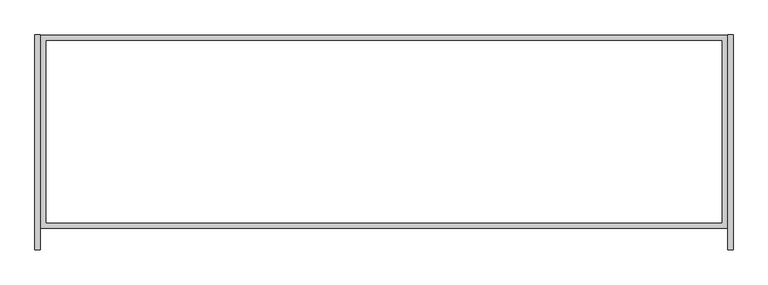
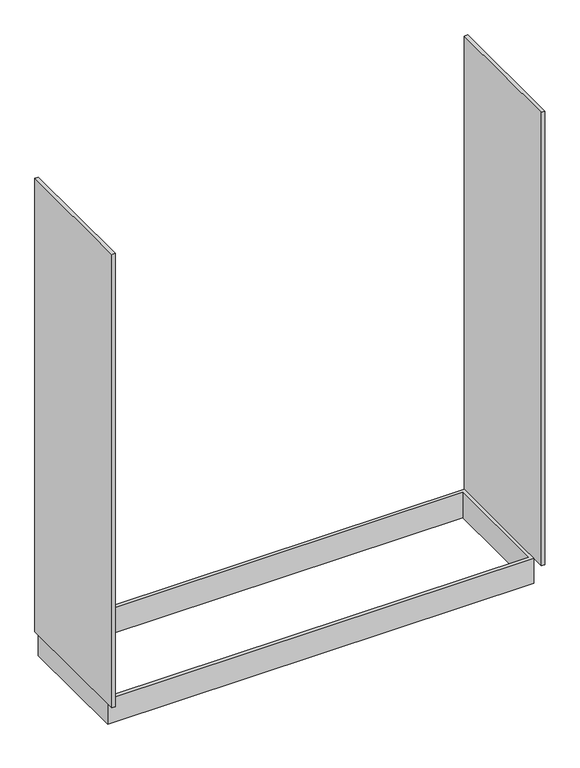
"""IFC4 building model written with IfcOpenShell, lengths in millimetres: furniture geometry, Lockers-Bay-Duracube-Duraloc : LPM-1900h x 500d x 400w with 100h x 50d Plinth-Stepped."""

from ifc_helpers import new_model, si_unit, frame, origin, origin_with_axes, place, context, project, spatial, polyline, outline, extrude, source, transform, mapped, element, save


def furniture_8c00c06e(model_context):
    return source(origin(), model_context, "Body", "SweptSolid", [
        extrude(outline(polyline([(1613.0, 250.0), (1613.0, -200.0), (13.0, -200.0), (13.0, 250.0), (1613.0, 250.0)]), holes=[polyline([(1600.0, -187.0), (1600.0, 237.0), (26.0, 237.0), (26.0, -187.0), (1600.0, -187.0)])]), origin_with_axes(), (0.0, 0.0, 1.0), 100.0),
        extrude(outline(polyline([(1613.0, 250.0), (1626.0, 250.0), (1626.0, -250.0), (1613.0, -250.0), (1613.0, 250.0)])), frame((0.0, 0.0, 100.0), z_axis=(0.0, 0.0, 1.0), x_axis=(1.0, 0.0, 0.0)), (0.0, 0.0, 1.0), 1800.0),
        extrude(outline(polyline([(0.0, 250.0), (13.0, 250.0), (13.0, -250.0), (0.0, -250.0), (0.0, 250.0)])), frame((0.0, 0.0, 100.0), z_axis=(0.0, 0.0, 1.0), x_axis=(1.0, 0.0, 0.0)), (0.0, 0.0, 1.0), 1800.0),
    ])


if __name__ == "__main__":
    model = new_model("IFC4")
    model_context = context("Model", 3, world=origin())
    ifc_project = project(units=[si_unit("LENGTHUNIT", "METRE", prefix="MILLI")], contexts=[model_context])
    site = spatial("IfcSite", under=ifc_project)
    building = spatial("IfcBuilding", under=site)
    placement = place(None, origin())
    furniture_shape = furniture_8c00c06e(model_context)
    element("IfcFurniture", 1, ObjectType="Lockers-Bay-Duracube-Duraloc : LPM-1900h x 500d x 400w with 100h x 50d Plinth-Stepped", at=placement, inside=building, context=model_context, shape_type="MappedRepresentation", body=[
        mapped(furniture_shape, transform((0.0, 0.0, 0.0), x_axis=(1.0, 0.0, 0.0), y_axis=(0.0, 1.0, 0.0), z_axis=(0.0, 0.0, 1.0))),
    ])
    save(model, "model.ifc")
